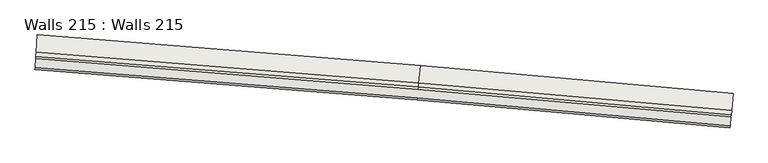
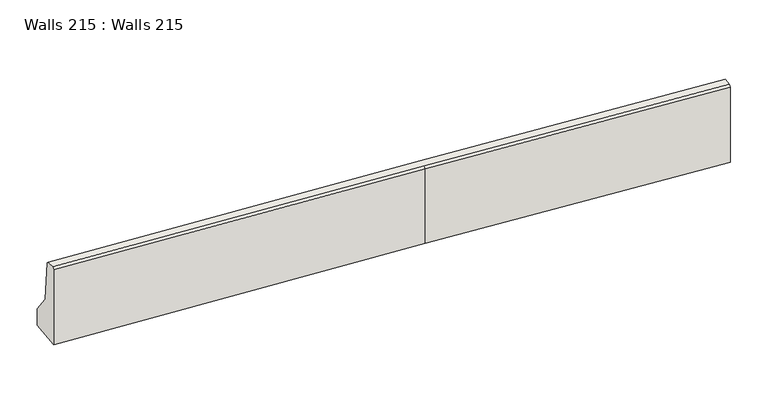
"""IFC4 building model written with IfcOpenShell, lengths in millimetres: wall geometry, Walls 215 : Walls 215."""

from ifc_helpers import new_model, si_unit, frame, origin, place, context, project, spatial, polyline, circle_curve, source, transform, mapped, element, save
from ifc_brep_helpers import plane_surface, cylinder_surface, revolved_surface, advanced_brep


def walls_215_walls_215_456a182c(model_context):
    return source(origin(), model_context, "Body", "AdvancedBrep", [
        advanced_brep(
        [(-774239.1408426, -409702.9034846, 637680.0), (-774256.8883076, -409902.1144971, 637930.0), (-774261.3251739, -409951.9172502, 638435.0), (-774263.543607, -409976.8186267, 638460.0), (-774272.4173395, -410076.424133, 638460.0), (-774274.6357727, -410101.3255095, 638435.0), (-774274.6357727, -410101.3255095, 637460.0), (-774239.1408426, -409702.9034846, 637460.0), (-777823.9523642, -409383.5370182, 637680.0), (-777841.6998292, -409582.7480306, 637930.0), (-777846.1366955, -409632.5507838, 638435.0), (-777848.3551286, -409657.4521603, 638460.0), (-782237.3884825, -409305.3478553, 638460.0), (-782244.5074791, -409405.0941329, 638460.0), (-777857.2288611, -409757.0576665, 638460.0), (-777859.4472943, -409781.9590431, 638435.0), (-777859.4472943, -409781.9590431, 637460.0), (-782246.2872282, -409430.0307023, 637460.0), (-782217.811242, -409031.045592, 637460.0), (-777823.9523642, -409383.5370182, 637460.0), (-782217.811242, -409031.045592, 637680.0), (-782246.2872282, -409430.0307023, 638435.0), (-782235.6087334, -409280.4112859, 638435.0), (-782232.0492351, -409230.5381472, 637930.0)],
        [
            (0, 1),
            (1, 2),
            (2, 3),
            (3, 4),
            (4, 5),
            (5, 6),
            (6, 7),
            (7, 0),
            (0, 8),
            (8, 9),
            (9, 1),
            (9, 10),
            (10, 2),
            (10, 11),
            (11, 3),
            (11, 12, circle_curve(frame((-800043.7786611, -658795.7254934, 638460.0), z_axis=(0.0, 0.0, 1.0), x_axis=(0.08873732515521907, 0.9960550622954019, 0.0)), 250125.00088)),
            (12, 13),
            (13, 14, circle_curve(frame((-800043.7786611, -658795.7254934, 638460.0), z_axis=(0.0, 0.0, -1.0), x_axis=(0.08873732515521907, 0.9960550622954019, 0.0)), 250025.00088)),
            (14, 4),
            (14, 15),
            (15, 5),
            (15, 16),
            (16, 6),
            (16, 17, circle_curve(frame((-800043.7786611, -658795.7254934, 637460.0), z_axis=(0.0, 0.0, 1.0), x_axis=(0.08873732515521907, 0.9960550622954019, 0.0)), 250000.00088)),
            (17, 18),
            (18, 19, circle_curve(frame((-800043.7786611, -658795.7254934, 637460.0), z_axis=(0.0, 0.0, -1.0), x_axis=(0.08873732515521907, 0.9960550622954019, 0.0)), 250400.00088)),
            (19, 7),
            (19, 8),
            (20, 18),
            (17, 21),
            (21, 13),
            (12, 22),
            (22, 23),
            (23, 20),
            (23, 9, circle_curve(frame((-800043.7786611, -658795.7254934, 637930.0), z_axis=(0.0, 0.0, -1.0), x_axis=(0.08873732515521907, 0.9960550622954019, 0.0)), 250200.00088)),
            (8, 20, circle_curve(frame((-800043.7786611, -658795.7254934, 637680.0), z_axis=(0.0, 0.0, 1.0), x_axis=(0.08873732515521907, 0.9960550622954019, 0.0)), 250400.00088)),
            (22, 10, circle_curve(frame((-800043.7786611, -658795.7254934, 638435.0), z_axis=(0.0, 0.0, -1.0), x_axis=(0.08873732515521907, 0.9960550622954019, 0.0)), 250150.00088)),
            (21, 15, circle_curve(frame((-800043.7786611, -658795.7254934, 638435.0), z_axis=(0.0, 0.0, -1.0), x_axis=(0.08873732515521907, 0.9960550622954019, 0.0)), 250000.00088)),
        ],
        [
            plane_surface(frame((-774274.6357727, -410101.3255095, 0.0), z_axis=(0.9960550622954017, -0.08873732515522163, 0.0), x_axis=(0.0, 0.0, 1.0))),
            plane_surface(frame((-774239.1408426, -409702.9034846, 637680.0), z_axis=(0.06929220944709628, 0.777788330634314, 0.6246950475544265), x_axis=(-0.9960550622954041, 0.0887373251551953, 0.0))),
            plane_surface(frame((-774256.8883076, -409902.1144971, 637930.0), z_axis=(0.08830555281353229, 0.9912085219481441, 0.09852814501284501), x_axis=(-0.9960550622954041, 0.0887373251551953, 0.0))),
            plane_surface(frame((-774261.3251739, -409951.9172502, 638435.0), z_axis=(0.06274676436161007, 0.7043172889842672, 0.7071067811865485), x_axis=(-0.9960550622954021, 0.08873732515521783, 0.0))),
            plane_surface(frame((-774263.543607, -409976.8186267, 638460.0), z_axis=(0.0, 0.0, 1.0000000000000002), x_axis=(-0.9960550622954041, 0.0887373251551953, 0.0))),
            plane_surface(frame((-774272.4173395, -410076.424133, 638460.0), z_axis=(-0.0627467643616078, -0.7043172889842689, 0.7071067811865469), x_axis=(-0.9960550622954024, 0.08873732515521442, 0.0))),
            plane_surface(frame((-774274.6357727, -410101.3255095, 638435.0), z_axis=(-0.08873732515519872, -0.9960550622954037, 0.0), x_axis=(-0.9960550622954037, 0.08873732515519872, 0.0))),
            plane_surface(frame((-774274.6357727, -410101.3255095, 637460.0), z_axis=(0.0, 0.0, -1.0), x_axis=(-0.9960550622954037, 0.08873732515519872, 0.0))),
            plane_surface(frame((-774239.1408426, -409702.9034846, 637460.0), z_axis=(0.0887373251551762, 0.9960550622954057, 0.0), x_axis=(-0.9960550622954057, 0.0887373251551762, 0.0))),
            plane_surface(frame((-782246.2872282, -409430.0307023, 0.0), z_axis=(-0.9974627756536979, 0.07118996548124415, 0.0), x_axis=(0.0, 0.0, 1.0))),
            revolved_surface(polyline([(-777823.9523642, -409383.5370182, 637680.0), (-777841.6998292, -409582.7480306, 637930.0)]), (-800043.7786611, -658795.7254934, 0.0), (0.0, 0.0, 1.0)),
            revolved_surface(polyline([(-777841.6998292, -409582.7480306, 637930.0), (-777846.1366955, -409632.5507838, 638435.0)]), (-800043.7786611, -658795.7254934, 0.0), (0.0, 0.0, 1.0)),
            revolved_surface(polyline([(-777846.1366955, -409632.5507838, 638435.0), (-777848.3551286, -409657.4521603, 638460.0)]), (-800043.7786611, -658795.7254934, 0.0), (0.0, 0.0, 1.0)),
            revolved_surface(polyline([(-777857.2288611, -409757.0576665, 638460.0), (-777859.4472943, -409781.9590431, 638435.0)]), (-800043.7786611, -658795.7254934, 0.0), (0.0, 0.0, 1.0)),
            revolved_surface(polyline([(-777859.4472942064, -409781.9590430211, 638435.0), (-777859.4472942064, -409781.9590430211, 637460.0)]), (-800043.7786611, -658795.7254934, 0.0), (0.0, 0.0, 1.0)),
            cylinder_surface(frame((-800043.7786611, -658795.7254934, 0.0), z_axis=(0.0, 0.0, 1.0), x_axis=(0.08873732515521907, 0.9960550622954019, 0.0)), 250400.00088),
        ],
        [
            (0, [[1, 2, 3, 4, 5, 6, 7, 8]]),
            (1, [[-1, 9, 10, 11]]),
            (2, [[-2, -11, 12, 13]]),
            (3, [[-3, -13, 14, 15]]),
            (4, [[-4, -15, 16, 17, 18, 19]]),
            (5, [[-5, -19, 20, 21]]),
            (6, [[-6, -21, 22, 23]]),
            (7, [[-7, -23, 24, 25, 26, 27]]),
            (8, [[-8, -27, 28, -9]]),
            (9, [[29, -25, 30, 31, -17, 32, 33, 34]]),
            (10, [[35, -10, 36, -34]]),
            (11, [[37, -12, -35, -33]]),
            (12, [[-16, -14, -37, -32]]),
            (13, [[38, -20, -18, -31]]),
            (14, [[-24, -22, -38, -30]]),
            (15, [[-36, -28, -26, -29]]),
        ],
    ),
    ])


if __name__ == "__main__":
    model = new_model("IFC4")
    model_context = context("Model", 3, world=origin())
    ifc_project = project(units=[si_unit("LENGTHUNIT", "METRE", prefix="MILLI")], contexts=[model_context])
    site = spatial("IfcSite", under=ifc_project)
    building = spatial("IfcBuilding", under=site)
    placement = place(None, origin())
    walls_215_walls_215_shape = walls_215_walls_215_456a182c(model_context)
    element("IfcWall", 1, ObjectType="Walls 215 : Walls 215", at=placement, inside=building, context=model_context, shape_type="MappedRepresentation", body=[
        mapped(walls_215_walls_215_shape, transform((0.0, 0.0, 0.0), x_axis=(1.0, 0.0, 0.0), y_axis=(0.0, 1.0, 0.0), z_axis=(0.0, 0.0, 1.0))),
    ])
    save(model, "model.ifc")
